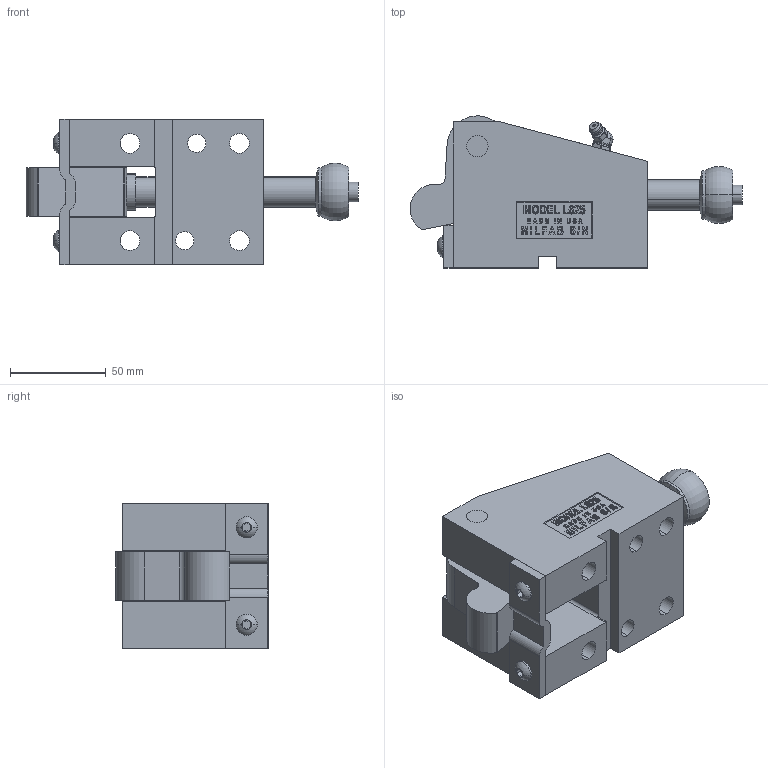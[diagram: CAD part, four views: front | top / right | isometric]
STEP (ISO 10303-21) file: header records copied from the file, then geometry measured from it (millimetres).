
FILE_DESCRIPTION (( 'STEP AP214' ), '1' );
FILE_NAME ('L62545-C.STEP', '2014-01-05T20:09:05', ( 'user' ), ( '' ), 'SwSTEP 2.0', 'SolidWorks 2009', '' );
FILE_SCHEMA (( 'AUTOMOTIVE_DESIGN' ));
Length unit declared in the file: inch
Products named in the file (11): 625-I-STRAP; 625-OFFSET TRIGGER; GREASE ZERK; 1-4 SCREW; 625 PIVOT PIN; 625-WASHER; 625 STRIPPER CLOSED; L625-BODY; L625-PUNCH; I-625-POINT; L62545-C
Assembly tree (11 placements, depth 2):
  L62545-C
    GREASE ZERK
    1-4 SCREW  x2
    625-WASHER
    L625-PUNCH
    625 STRIPPER CLOSED
    I-625-POINT
    625-OFFSET TRIGGER
    L625-BODY
    625 PIVOT PIN
    625-I-STRAP
Bounding box: 173.31 x 79.35 x 76.2 mm (x, y, z)
Volume: 466659.5 mm3; surface area: 91007.8 mm2
Topology: 11 solids, 11 shells, 586 faces, 1516 edges, 997 vertices
Faces by surface type: plane 337, cylinder 104, bspline 91, cone 28, torus 22, sphere 4
Entity records: 23103 total; most frequent: CARTESIAN_POINT 9283, ORIENTED_EDGE 2948, DIRECTION 2404, EDGE_CURVE 1474, VERTEX_POINT 971, VECTOR 954, LINE 954, AXIS2_PLACEMENT_3D 725
